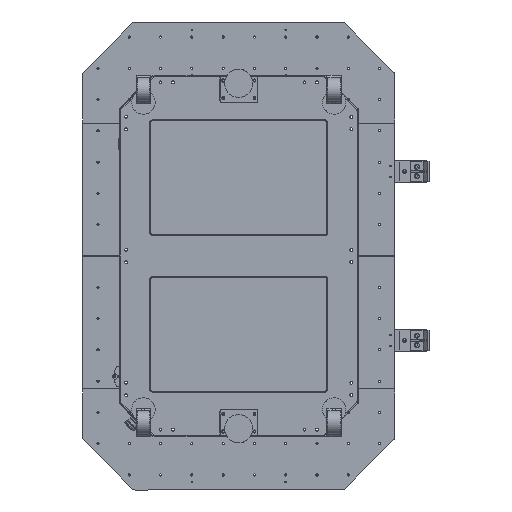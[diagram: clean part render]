
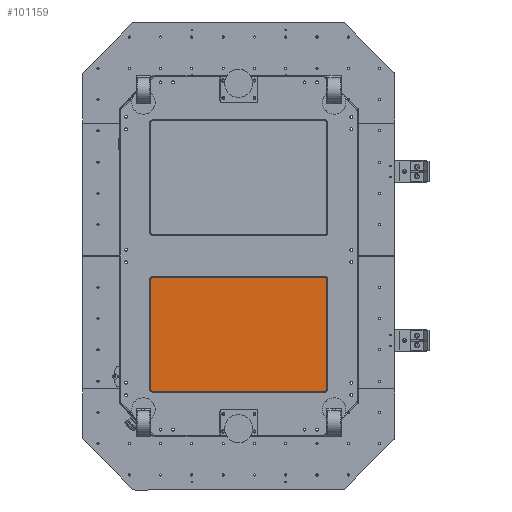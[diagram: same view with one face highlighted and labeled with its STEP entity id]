
A CAD part, front view. The second image highlights one B-rep face of the part: STEP entity #101159.
In plain terms, the highlighted planar face has unit normal (0, -1, 0).
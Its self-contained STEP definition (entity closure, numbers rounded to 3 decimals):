
#4388 = EDGE_CURVE ( 'NONE', #66207, #8518, #75293, .T. ) ;
#5034 = LINE ( 'NONE', #27948, #138493 ) ;
#8518 = VERTEX_POINT ( 'NONE', #143393 ) ;
#13178 = DIRECTION ( 'NONE',  ( -1., 0., 0. ) ) ;
#20624 = DIRECTION ( 'NONE',  ( 0., 0., 1. ) ) ;
#21325 = CARTESIAN_POINT ( 'NONE',  ( 275., 10., -68. ) ) ;
#27948 = CARTESIAN_POINT ( 'NONE',  ( -275., 10., -68. ) ) ;
#28181 = LINE ( 'NONE', #201489, #139076 ) ;
#31239 = DIRECTION ( 'NONE',  ( 0., -1., 0. ) ) ;
#42581 = VECTOR ( 'NONE', #123253, 1000. ) ;
#44289 = EDGE_CURVE ( 'NONE', #70695, #162505, #5034, .T. ) ;
#44560 = DIRECTION ( 'NONE',  ( 0., -1., 0. ) ) ;
#44778 = VERTEX_POINT ( 'NONE', #123429 ) ;
#47481 = DIRECTION ( 'NONE',  ( 0., 0., -1. ) ) ;
#48768 = DIRECTION ( 'NONE',  ( 1., 0., 0. ) ) ;
#53661 = EDGE_CURVE ( 'NONE', #116605, #44778, #28181, .T. ) ;
#61398 = DIRECTION ( 'NONE',  ( 1., 0., 0. ) ) ;
#62882 = DIRECTION ( 'NONE',  ( 1., 0., 0. ) ) ;
#63472 = CARTESIAN_POINT ( 'NONE',  ( -275., 10., -432. ) ) ;
#63549 = DIRECTION ( 'NONE',  ( 0., -1., 0. ) ) ;
#66207 = VERTEX_POINT ( 'NONE', #137081 ) ;
#70695 = VERTEX_POINT ( 'NONE', #21325 ) ;
#72666 = CIRCLE ( 'NONE', #74890, 7. ) ;
#74890 = AXIS2_PLACEMENT_3D ( 'NONE', #116681, #146264, #82825 ) ;
#75293 = LINE ( 'NONE', #171192, #42581 ) ;
#78896 = CIRCLE ( 'NONE', #160654, 7. ) ;
#80236 = ORIENTED_EDGE ( 'NONE', *, *, #171801, .T. ) ;
#81863 = CARTESIAN_POINT ( 'NONE',  ( -290., 10., -60. ) ) ;
#82825 = DIRECTION ( 'NONE',  ( 1., 0., 0. ) ) ;
#88034 = DIRECTION ( 'NONE',  ( 1., 0., 0. ) ) ;
#91247 = AXIS2_PLACEMENT_3D ( 'NONE', #112269, #63549, #62882 ) ;
#93478 = EDGE_CURVE ( 'NONE', #162505, #66207, #72666, .T. ) ;
#94284 = CARTESIAN_POINT ( 'NONE',  ( 282., 10., -425. ) ) ;
#101159 = ADVANCED_FACE ( 'NONE', ( #135589 ), #162238, .F. ) ;
#105903 = EDGE_CURVE ( 'NONE', #8518, #116605, #78896, .T. ) ;
#107201 = ORIENTED_EDGE ( 'NONE', *, *, #105903, .T. ) ;
#109159 = ORIENTED_EDGE ( 'NONE', *, *, #44289, .T. ) ;
#109516 = AXIS2_PLACEMENT_3D ( 'NONE', #81863, #191878, #47481 ) ;
#112269 = CARTESIAN_POINT ( 'NONE',  ( 275., 10., -75. ) ) ;
#116605 = VERTEX_POINT ( 'NONE', #63472 ) ;
#116681 = CARTESIAN_POINT ( 'NONE',  ( -275., 10., -75. ) ) ;
#117733 = CARTESIAN_POINT ( 'NONE',  ( 282., 10., -425. ) ) ;
#120929 = EDGE_LOOP ( 'NONE', ( #142787, #107201, #149453, #80236, #189347, #145341, #109159, #164486 ) ) ;
#123253 = DIRECTION ( 'NONE',  ( 0., 0., -1. ) ) ;
#123429 = CARTESIAN_POINT ( 'NONE',  ( 275., 10., -432. ) ) ;
#129703 = CARTESIAN_POINT ( 'NONE',  ( -275., 10., -425. ) ) ;
#132343 = VECTOR ( 'NONE', #20624, 1000. ) ;
#135589 = FACE_OUTER_BOUND ( 'NONE', #120929, .T. ) ;
#137081 = CARTESIAN_POINT ( 'NONE',  ( -282., 10., -75. ) ) ;
#138493 = VECTOR ( 'NONE', #13178, 1000. ) ;
#139076 = VECTOR ( 'NONE', #88034, 1000. ) ;
#142787 = ORIENTED_EDGE ( 'NONE', *, *, #4388, .T. ) ;
#143393 = CARTESIAN_POINT ( 'NONE',  ( -282., 10., -425. ) ) ;
#143475 = EDGE_CURVE ( 'NONE', #147971, #195028, #207915, .T. ) ;
#145341 = ORIENTED_EDGE ( 'NONE', *, *, #166668, .T. ) ;
#145670 = CARTESIAN_POINT ( 'NONE',  ( 282., 10., -75. ) ) ;
#146264 = DIRECTION ( 'NONE',  ( 0., -1., 0. ) ) ;
#147971 = VERTEX_POINT ( 'NONE', #94284 ) ;
#149453 = ORIENTED_EDGE ( 'NONE', *, *, #53661, .T. ) ;
#153687 = AXIS2_PLACEMENT_3D ( 'NONE', #204478, #44560, #61398 ) ;
#155363 = CIRCLE ( 'NONE', #153687, 7. ) ;
#160654 = AXIS2_PLACEMENT_3D ( 'NONE', #129703, #31239, #48768 ) ;
#162238 = PLANE ( 'NONE',  #109516 ) ;
#162505 = VERTEX_POINT ( 'NONE', #190221 ) ;
#164486 = ORIENTED_EDGE ( 'NONE', *, *, #93478, .T. ) ;
#166668 = EDGE_CURVE ( 'NONE', #195028, #70695, #186716, .T. ) ;
#171192 = CARTESIAN_POINT ( 'NONE',  ( -282., 10., -425. ) ) ;
#171801 = EDGE_CURVE ( 'NONE', #44778, #147971, #155363, .T. ) ;
#186716 = CIRCLE ( 'NONE', #91247, 7. ) ;
#189347 = ORIENTED_EDGE ( 'NONE', *, *, #143475, .T. ) ;
#190221 = CARTESIAN_POINT ( 'NONE',  ( -275., 10., -68. ) ) ;
#191878 = DIRECTION ( 'NONE',  ( 0., 1., 0. ) ) ;
#195028 = VERTEX_POINT ( 'NONE', #145670 ) ;
#201489 = CARTESIAN_POINT ( 'NONE',  ( -275., 10., -432. ) ) ;
#204478 = CARTESIAN_POINT ( 'NONE',  ( 275., 10., -425. ) ) ;
#207915 = LINE ( 'NONE', #117733, #132343 ) ;
